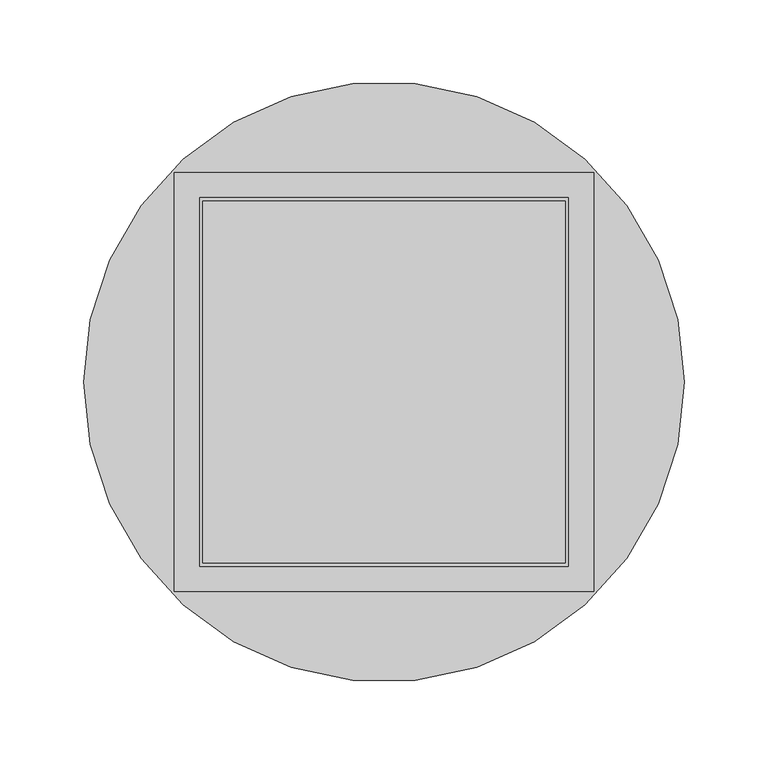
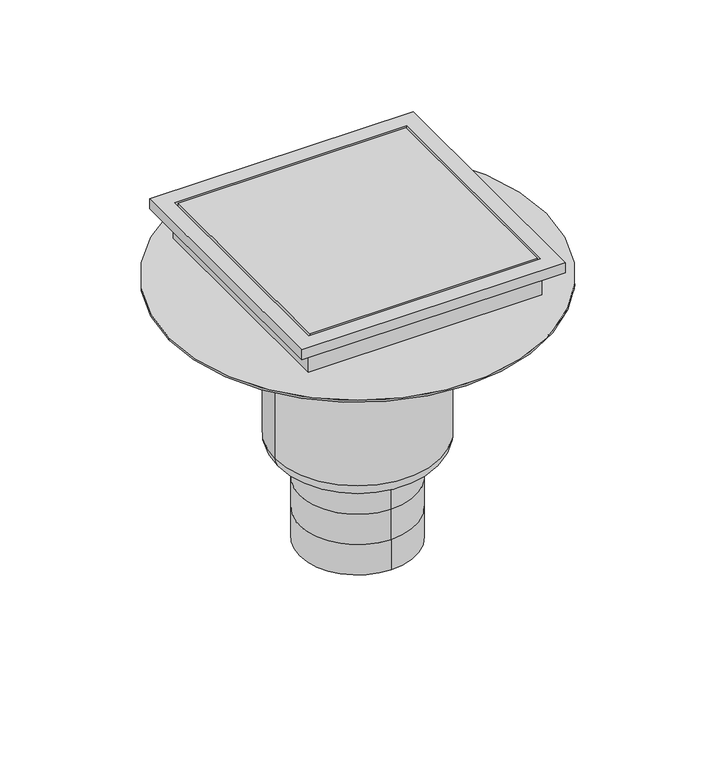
"""IFC4 building model written with IfcOpenShell, lengths in millimetres: sanitary terminal geometry, PF_ST_UN_Siphon telescopics epur hygiene first_ACO : 250 x 250 telescopic hygenic gully 157mm outlet DN110."""

from ifc_helpers import new_model, si_unit, point, frame, origin, origin_2d, place, context, project, spatial, polyline, circle_curve, ellipse_curve, trimmed, segment, composite_curve, outline, extrude, faceted_brep, source, transform, mapped, element, save
from ifc_brep_helpers import plane_surface, cylinder_surface, revolved_surface, advanced_brep


def sanitary_terminal_7cea295e(model_context):
    return source(origin(), model_context, "Body", "SolidModel", [
        advanced_brep(
        [(0.0, -55.0, -427.0), (0.0, 55.0, -427.0), (0.0, -55.0, -396.6666667), (0.0, 55.0, -396.6666667), (0.0, -55.0, -366.3333333), (0.0, 55.0, -366.3333333), (0.0, 55.0, -336.0), (55.0, 0.0, -336.0), (0.0, -55.0, -336.0), (-55.0, 0.0, -336.0), (78.5, 0.0, -321.0), (-78.5, 0.0, -321.0), (-78.5, 0.0, -167.0), (78.5, 0.0, -167.0), (63.5, 0.0, -336.0), (-63.5, 0.0, -336.0), (-179.0, 0.0, -167.0), (179.0, 0.0, -167.0), (-179.0, 0.0, -165.0), (179.0, 0.0, -165.0)],
        [
            (0, 1, circle_curve(frame((0.0, 0.0, -427.0), z_axis=(0.0, 0.0, -1.0), x_axis=(0.0, 1.0, 0.0)), 55.0)),
            (1, 0, circle_curve(frame((0.0, 0.0, -427.0), z_axis=(0.0, 0.0, -1.0), x_axis=(0.0, 1.0, 0.0)), 55.0)),
            (0, 2),
            (2, 3, circle_curve(frame((0.0, 0.0, -396.6666667), z_axis=(0.0, 0.0, -1.0), x_axis=(0.0, 1.0, 0.0)), 55.0)),
            (3, 1),
            (3, 2, circle_curve(frame((0.0, 0.0, -396.6666667), z_axis=(0.0, 0.0, -1.0), x_axis=(0.0, 1.0, 0.0)), 55.0)),
            (4, 2),
            (3, 5),
            (5, 4, circle_curve(frame((0.0, 0.0, -366.3333333), z_axis=(0.0, 0.0, -1.0), x_axis=(1.0, 0.0, 0.0)), 55.0)),
            (4, 5, circle_curve(frame((0.0, 0.0, -366.3333333), z_axis=(0.0, 0.0, -1.0), x_axis=(-1.0, 0.0, 0.0)), 55.0)),
            (5, 6),
            (6, 7, circle_curve(frame((0.0, 0.0, -336.0), z_axis=(0.0, 0.0, -1.0), x_axis=(0.0, 1.0, 0.0)), 55.0)),
            (7, 8, circle_curve(frame((0.0, 0.0, -336.0), z_axis=(0.0, 0.0, -1.0), x_axis=(0.0, 1.0, 0.0)), 55.0)),
            (8, 4),
            (8, 9, circle_curve(frame((0.0, 0.0, -336.0), z_axis=(0.0, 0.0, -1.0), x_axis=(0.0, 1.0, 0.0)), 55.0)),
            (9, 6, circle_curve(frame((0.0, 0.0, -336.0), z_axis=(0.0, 0.0, -1.0), x_axis=(0.0, 1.0, 0.0)), 55.0)),
            (10, 11, circle_curve(frame((0.0, 0.0, -321.0), z_axis=(0.0, 0.0, 1.0), x_axis=(-1.0, 0.0, 0.0)), 78.5)),
            (11, 12),
            (12, 13, circle_curve(frame((0.0, 0.0, -167.0), z_axis=(0.0, 0.0, -1.0), x_axis=(-1.0, 0.0, 0.0)), 78.5)),
            (13, 10),
            (11, 10, circle_curve(frame((0.0, 0.0, -321.0), z_axis=(0.0, 0.0, 1.0), x_axis=(-1.0, 0.0, 0.0)), 78.5)),
            (13, 12, circle_curve(frame((0.0, 0.0, -167.0), z_axis=(0.0, 0.0, -1.0), x_axis=(-1.0, 0.0, 0.0)), 78.5)),
            (10, 14, circle_curve(frame((63.5, 0.0, -321.0), z_axis=(0.0, 1.0, 0.0), x_axis=(-1.0, 0.0, 0.0)), 15.0)),
            (14, 15, circle_curve(frame((0.0, 0.0, -336.0), z_axis=(0.0, 0.0, 1.0), x_axis=(-1.0, 0.0, 0.0)), 63.5)),
            (15, 11, circle_curve(frame((-63.5, 0.0, -321.0), z_axis=(0.0, 1.0, 0.0), x_axis=(1.0, 0.0, 0.0)), 15.0)),
            (15, 14, circle_curve(frame((0.0, 0.0, -336.0), z_axis=(0.0, 0.0, 1.0), x_axis=(-1.0, 0.0, 0.0)), 63.5)),
            (14, 7),
            (9, 15),
            (16, 17, circle_curve(frame((0.0, 0.0, -167.0), z_axis=(0.0, 0.0, -1.0), x_axis=(1.0, 0.0, 0.0)), 179.0)),
            (17, 16, circle_curve(frame((0.0, 0.0, -167.0), z_axis=(0.0, 0.0, -1.0), x_axis=(1.0, 0.0, 0.0)), 179.0)),
            (18, 19, circle_curve(frame((0.0, 0.0, -165.0), z_axis=(0.0, 0.0, 1.0), x_axis=(1.0, 0.0, 0.0)), 179.0)),
            (19, 18, circle_curve(frame((0.0, 0.0, -165.0), z_axis=(0.0, 0.0, 1.0), x_axis=(1.0, 0.0, 0.0)), 179.0)),
            (17, 19),
            (18, 16),
        ],
        [
            plane_surface(frame((0.0, 55.0, -427.0), z_axis=(0.0, 0.0, -1.0), x_axis=(1.0, 0.0, 0.0))),
            cylinder_surface(frame((0.0, 0.0, -396.6666667), z_axis=(0.0, 0.0, -1.0), x_axis=(0.0, 1.0, 0.0)), 55.0),
            cylinder_surface(frame((0.0, 0.0, -366.3333333), z_axis=(0.0, 0.0, -1.0), x_axis=(1.0, 0.0, 0.0)), 55.0),
            cylinder_surface(frame((0.0, 0.0, -366.3333333), z_axis=(0.0, 0.0, -1.0), x_axis=(-1.0, 0.0, 0.0)), 55.0),
            cylinder_surface(frame((0.0, 0.0, -336.0), z_axis=(0.0, 0.0, -1.0), x_axis=(0.0, 1.0, 0.0)), 55.0),
            cylinder_surface(frame((0.0, 0.0, -105.0), z_axis=(0.0, 0.0, -1.0), x_axis=(-1.0, 0.0, 0.0)), 78.5),
            revolved_surface(trimmed(ellipse_curve(frame((-63.5, 0.0, -321.0), z_axis=(0.0, -1.0, 0.0), x_axis=(1.0, 0.0, 0.0)), 15.0, 15.0), [point((-78.5, 0.0, -321.0))], [point((-63.5, 0.0, -336.0))], True, "CARTESIAN"), (0.0, 0.0, -105.0), (0.0, 0.0, -1.0)),
            plane_surface(frame((0.0, 0.0, -336.0), z_axis=(0.0, 0.0, -1.0), x_axis=(-1.0, 0.0, 0.0))),
            plane_surface(frame((179.0, 0.0, -167.0), z_axis=(0.0, 0.0, -1.0), x_axis=(0.0, -1.0, 0.0))),
            plane_surface(frame((179.0, 0.0, -165.0), z_axis=(0.0, 0.0, 1.0), x_axis=(0.0, 1.0, 0.0))),
            cylinder_surface(frame((0.0, 0.0, -167.0), z_axis=(0.0, 0.0, 1.0), x_axis=(1.0, 0.0, 0.0)), 179.0),
        ],
        [
            (0, [[1, 2]]),
            (1, [[-1, 3, 4, 5]]),
            (1, [[-2, -5, 6, -3]]),
            (2, [[7, -6, 8, 9]]),
            (3, [[-7, 10, -8, -4]]),
            (4, [[11, 12, 13, 14, -9]]),
            (4, [[-11, -10, -14, 15, 16]]),
            (5, [[17, 18, 19, 20]]),
            (5, [[-18, 21, -20, 22]]),
            (6, [[-17, 23, 24, 25]]),
            (6, [[-21, -25, 26, -23]]),
            (7, [[-24, 27, -12, -16, 28]]),
            (7, [[-26, -28, -15, -13, -27]]),
            (8, [[29, 30], [-19, -22]]),
            (9, [[31, 32]]),
            (10, [[-30, 33, -31, 34]]),
            (10, [[-29, -34, -32, -33]]),
        ],
    ),
        extrude(outline(composite_curve([segment(trimmed(circle_curve(origin_2d(), 71.5), [point((-71.5, 0.0))], [point((71.5, 0.0))], False, "CARTESIAN"), True, "CONTINUOUS"), segment(trimmed(circle_curve(origin_2d(), 71.5), [point((71.5, 0.0))], [point((-71.5, 0.0))], False, "CARTESIAN"), True, "CONTINUOUS")], self_intersect=False)), frame((0.0, 0.0, -215.0), z_axis=(0.0, 0.0, 1.0), x_axis=(1.0, 0.0, 0.0)), (0.0, 0.0, 1.0), 59.0),
        faceted_brep([(125.0, 125.0, -130.0), (125.0, 125.0, -120.0), (125.0, -125.0, -120.0), (125.0, -125.0, -130.0), (111.0, 111.0, -156.0), (111.0, 111.0, -130.0), (111.0, -111.0, -130.0), (111.0, -111.0, -156.0), (110.0, -110.0, -120.0), (110.0, 110.0, -120.0), (110.0, 110.0, -146.0), (110.0, -110.0, -146.0), (-125.0, -125.0, -120.0), (-125.0, -125.0, -130.0), (-111.0, -111.0, -130.0), (-111.0, -111.0, -156.0), (-110.0, -110.0, -120.0), (-110.0, -110.0, -146.0), (-125.0, 125.0, -120.0), (-125.0, 125.0, -130.0), (-111.0, 111.0, -130.0), (-111.0, 111.0, -156.0), (-110.0, 110.0, -120.0), (-110.0, 110.0, -146.0)], [[[0, 1, 2, 3]], [[4, 5, 6, 7]], [[8, 9, 10, 11]], [[3, 2, 12, 13]], [[7, 6, 14, 15]], [[16, 8, 11, 17]], [[13, 12, 18, 19]], [[15, 14, 20, 21]], [[22, 16, 17, 23]], [[2, 1, 18, 12], [9, 8, 16, 22]], [[1, 0, 19, 18]], [[0, 3, 13, 19], [6, 5, 20, 14]], [[5, 4, 21, 20]], [[4, 7, 15, 21]], [[9, 22, 23, 10]], [[11, 10, 23, 17]]]),
        extrude(outline(polyline([(108.0, 108.0), (108.0, -108.0), (-108.0, -108.0), (-108.0, 108.0), (108.0, 108.0)])), frame((0.0, 0.0, -146.0), z_axis=(0.0, 0.0, 1.0), x_axis=(1.0, 0.0, 0.0)), (0.0, 0.0, 1.0), 26.0),
    ])


if __name__ == "__main__":
    model = new_model("IFC4")
    model_context = context("Model", 3, world=origin())
    ifc_project = project(units=[si_unit("LENGTHUNIT", "METRE", prefix="MILLI")], contexts=[model_context])
    site = spatial("IfcSite", under=ifc_project)
    building = spatial("IfcBuilding", under=site)
    placement = place(None, origin())
    sanitary_terminal_shape = sanitary_terminal_7cea295e(model_context)
    element("IfcSanitaryTerminal", 1, ObjectType="PF_ST_UN_Siphon telescopics epur hygiene first_ACO : 250 x 250 telescopic hygenic gully 157mm outlet DN110", at=placement, inside=building, context=model_context, shape_type="MappedRepresentation", body=[
        mapped(sanitary_terminal_shape, transform((0.0, 0.0, 0.0), x_axis=(1.0, 0.0, 0.0), y_axis=(0.0, 1.0, 0.0), z_axis=(0.0, 0.0, 1.0))),
    ])
    save(model, "model.ifc")
